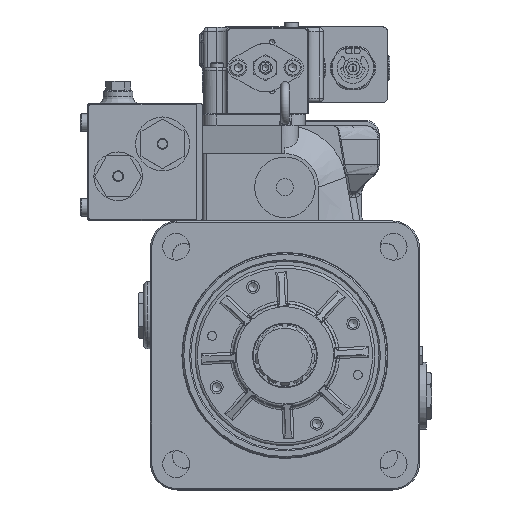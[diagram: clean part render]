
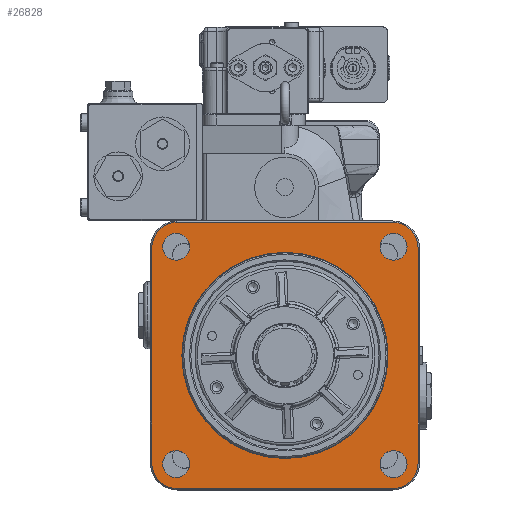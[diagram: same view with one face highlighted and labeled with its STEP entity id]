
A CAD part, top view. The second image highlights one B-rep face of the part: STEP entity #26828.
In plain terms, the highlighted planar face has unit normal (0, 0, 1).
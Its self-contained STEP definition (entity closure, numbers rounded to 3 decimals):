
#26594=CARTESIAN_POINT('',(76.6,0.,23.));
#26595=VERTEX_POINT('',#26594);
#26596=CARTESIAN_POINT('',(0.0,0.0,23.));
#26597=DIRECTION('',(0.0,0.0,1.0));
#26598=DIRECTION('',(-1.0,0.0,0.0));
#26599=AXIS2_PLACEMENT_3D('',#26596,#26597,#26598);
#26600=CIRCLE('',#26599,76.6);
#26601=EDGE_CURVE('',#26595,#26595,#26600,.T.);
#26706=CARTESIAN_POINT('',(0.,0.,23.));
#26707=DIRECTION('',(0.0,0.0,1.0));
#26708=DIRECTION('',(1.0,0.0,0.0));
#26709=AXIS2_PLACEMENT_3D('',#26706,#26707,#26708);
#26710=PLANE('',#26709);
#26711=CARTESIAN_POINT('',(-80.0,99.0,23.));
#26712=VERTEX_POINT('',#26711);
#26713=CARTESIAN_POINT('',(80.0,99.0,23.));
#26714=VERTEX_POINT('',#26713);
#26715=CARTESIAN_POINT('',(-80.0,99.0,23.));
#26716=DIRECTION('',(1.0,0.0,0.0));
#26717=VECTOR('',#26716,160.0);
#26718=LINE('',#26715,#26717);
#26719=EDGE_CURVE('',#26712,#26714,#26718,.T.);
#26720=ORIENTED_EDGE('',*,*,#26719,.F.);
#26721=CARTESIAN_POINT('',(-99.,80.0,23.));
#26722=VERTEX_POINT('',#26721);
#26723=CARTESIAN_POINT('',(-80.,80.,23.));
#26724=DIRECTION('',(0.0,0.0,-1.0));
#26725=DIRECTION('',(0.0,1.0,0.0));
#26726=AXIS2_PLACEMENT_3D('',#26723,#26724,#26725);
#26727=CIRCLE('',#26726,19.0);
#26728=EDGE_CURVE('',#26722,#26712,#26727,.T.);
#26729=ORIENTED_EDGE('',*,*,#26728,.F.);
#26730=CARTESIAN_POINT('',(-99.,-80.0,23.));
#26731=VERTEX_POINT('',#26730);
#26732=CARTESIAN_POINT('',(-99.,-80.0,23.));
#26733=DIRECTION('',(0.0,1.0,0.0));
#26734=VECTOR('',#26733,160.0);
#26735=LINE('',#26732,#26734);
#26736=EDGE_CURVE('',#26731,#26722,#26735,.T.);
#26737=ORIENTED_EDGE('',*,*,#26736,.F.);
#26738=CARTESIAN_POINT('',(-80.,-99.0,23.));
#26739=VERTEX_POINT('',#26738);
#26740=CARTESIAN_POINT('',(-80.,-80.,23.));
#26741=DIRECTION('',(0.0,0.0,-1.0));
#26742=DIRECTION('',(-1.0,0.0,0.0));
#26743=AXIS2_PLACEMENT_3D('',#26740,#26741,#26742);
#26744=CIRCLE('',#26743,19.);
#26745=EDGE_CURVE('',#26739,#26731,#26744,.T.);
#26746=ORIENTED_EDGE('',*,*,#26745,.F.);
#26747=CARTESIAN_POINT('',(80.,-99.,23.));
#26748=VERTEX_POINT('',#26747);
#26749=CARTESIAN_POINT('',(80.,-99.,23.));
#26750=DIRECTION('',(-1.0,0.0,0.0));
#26751=VECTOR('',#26750,160.);
#26752=LINE('',#26749,#26751);
#26753=EDGE_CURVE('',#26748,#26739,#26752,.T.);
#26754=ORIENTED_EDGE('',*,*,#26753,.F.);
#26755=CARTESIAN_POINT('',(99.,-80.0,23.));
#26756=VERTEX_POINT('',#26755);
#26757=CARTESIAN_POINT('',(80.,-80.,23.));
#26758=DIRECTION('',(0.0,0.0,-1.0));
#26759=DIRECTION('',(0.0,-1.0,0.0));
#26760=AXIS2_PLACEMENT_3D('',#26757,#26758,#26759);
#26761=CIRCLE('',#26760,19.);
#26762=EDGE_CURVE('',#26756,#26748,#26761,.T.);
#26763=ORIENTED_EDGE('',*,*,#26762,.F.);
#26764=CARTESIAN_POINT('',(99.,80.0,23.));
#26765=VERTEX_POINT('',#26764);
#26766=CARTESIAN_POINT('',(99.,80.0,23.));
#26767=DIRECTION('',(0.0,-1.0,0.0));
#26768=VECTOR('',#26767,160.0);
#26769=LINE('',#26766,#26768);
#26770=EDGE_CURVE('',#26765,#26756,#26769,.T.);
#26771=ORIENTED_EDGE('',*,*,#26770,.F.);
#26772=CARTESIAN_POINT('',(80.,80.,23.));
#26773=DIRECTION('',(0.0,0.0,-1.0));
#26774=DIRECTION('',(1.0,0.0,0.0));
#26775=AXIS2_PLACEMENT_3D('',#26772,#26773,#26774);
#26776=CIRCLE('',#26775,19.0);
#26777=EDGE_CURVE('',#26714,#26765,#26776,.T.);
#26778=ORIENTED_EDGE('',*,*,#26777,.F.);
#26779=EDGE_LOOP('',(#26720,#26729,#26737,#26746,#26754,#26763,#26771,#26778));
#26780=FACE_OUTER_BOUND('',#26779,.T.);
#26781=CARTESIAN_POINT('',(90.8,-80.8,23.));
#26782=VERTEX_POINT('',#26781);
#26783=CARTESIAN_POINT('',(80.8,-80.8,23.));
#26784=DIRECTION('',(0.0,0.0,-1.0));
#26785=DIRECTION('',(-1.0,0.0,0.0));
#26786=AXIS2_PLACEMENT_3D('',#26783,#26784,#26785);
#26787=CIRCLE('',#26786,10.0);
#26788=EDGE_CURVE('',#26782,#26782,#26787,.T.);
#26789=ORIENTED_EDGE('',*,*,#26788,.T.);
#26790=EDGE_LOOP('',(#26789));
#26791=FACE_BOUND('',#26790,.T.);
#26792=CARTESIAN_POINT('',(-70.8,80.8,23.));
#26793=VERTEX_POINT('',#26792);
#26794=CARTESIAN_POINT('',(-80.8,80.8,23.));
#26795=DIRECTION('',(0.0,0.0,-1.0));
#26796=DIRECTION('',(-1.0,0.0,0.0));
#26797=AXIS2_PLACEMENT_3D('',#26794,#26795,#26796);
#26798=CIRCLE('',#26797,10.0);
#26799=EDGE_CURVE('',#26793,#26793,#26798,.T.);
#26800=ORIENTED_EDGE('',*,*,#26799,.T.);
#26801=EDGE_LOOP('',(#26800));
#26802=FACE_BOUND('',#26801,.T.);
#26803=CARTESIAN_POINT('',(90.8,80.8,23.));
#26804=VERTEX_POINT('',#26803);
#26805=CARTESIAN_POINT('',(80.8,80.8,23.));
#26806=DIRECTION('',(0.0,0.0,-1.0));
#26807=DIRECTION('',(-1.0,0.0,0.0));
#26808=AXIS2_PLACEMENT_3D('',#26805,#26806,#26807);
#26809=CIRCLE('',#26808,10.0);
#26810=EDGE_CURVE('',#26804,#26804,#26809,.T.);
#26811=ORIENTED_EDGE('',*,*,#26810,.T.);
#26812=EDGE_LOOP('',(#26811));
#26813=FACE_BOUND('',#26812,.T.);
#26814=CARTESIAN_POINT('',(-70.8,-80.8,23.));
#26815=VERTEX_POINT('',#26814);
#26816=CARTESIAN_POINT('',(-80.8,-80.8,23.));
#26817=DIRECTION('',(0.0,0.0,-1.0));
#26818=DIRECTION('',(-1.0,0.0,0.0));
#26819=AXIS2_PLACEMENT_3D('',#26816,#26817,#26818);
#26820=CIRCLE('',#26819,10.0);
#26821=EDGE_CURVE('',#26815,#26815,#26820,.T.);
#26822=ORIENTED_EDGE('',*,*,#26821,.T.);
#26823=EDGE_LOOP('',(#26822));
#26824=FACE_BOUND('',#26823,.T.);
#26825=ORIENTED_EDGE('',*,*,#26601,.F.);
#26826=EDGE_LOOP('',(#26825));
#26827=FACE_BOUND('',#26826,.T.);
#26828=ADVANCED_FACE('',(#26780,#26791,#26802,#26813,#26824,#26827),#26710,.T.);
